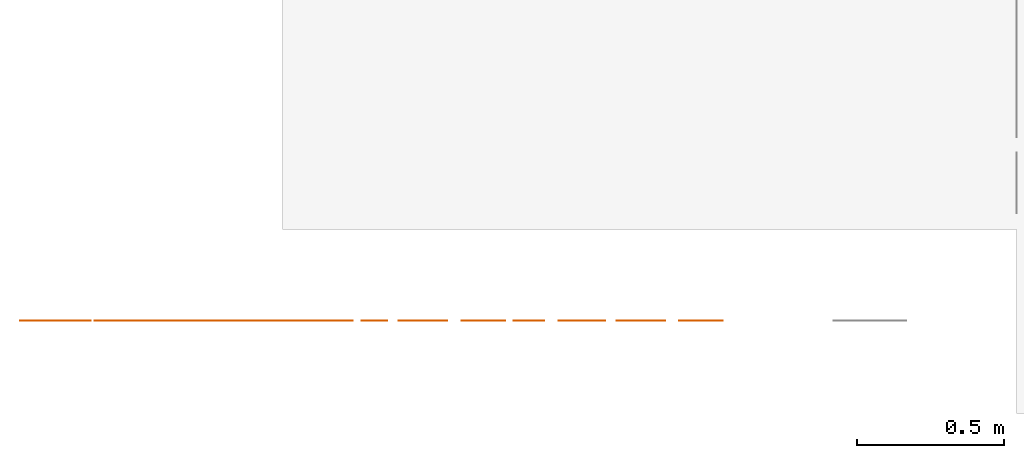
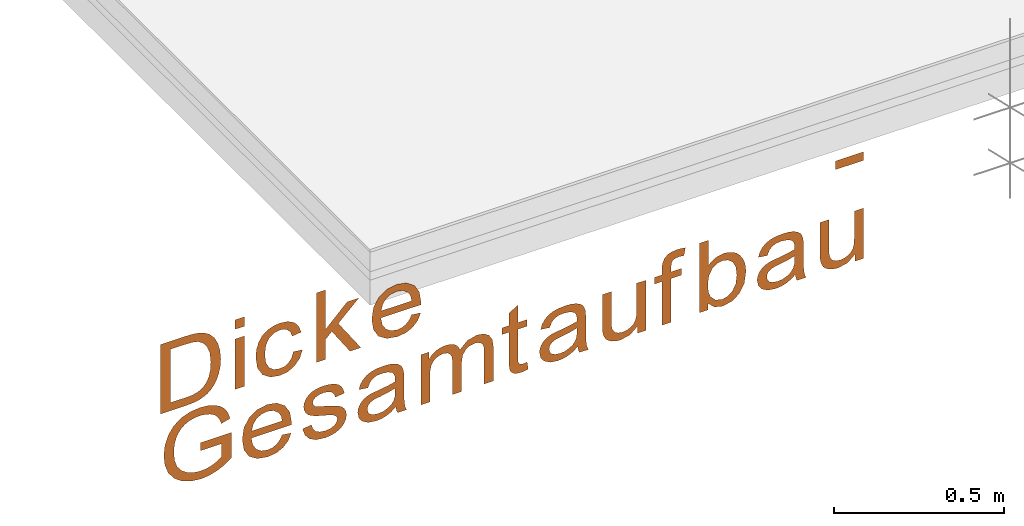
# One storey, part 3 of 3: 1 proxy, 1 element without a shape of its own.
"""IFC4 building model written with IfcOpenShell, lengths in metres."""

from ifc_helpers import new_model, entity, si_unit, converted_unit, derived_unit, frame, origin, origin_with_axes, place, context, subcontext, project, spatial, open_shell, surface_model, source, transform, mapped, element, aggregate, save


model = new_model("IFC4")

# Units and contexts
model_context = context("Model", 3, precision=1e-05, world=origin())
body_context = subcontext(model_context, "Body", "Model", "MODEL_VIEW")
ifc_project = project(units=[si_unit("LENGTHUNIT", "METRE"), si_unit("AREAUNIT", "SQUARE_METRE"), si_unit("VOLUMEUNIT", "CUBIC_METRE"), si_unit("MASSUNIT", "GRAM", prefix="KILO"), converted_unit("PLANEANGLEUNIT", "DEGREE", entity("IfcPlaneAngleMeasure", 0.0174532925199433), si_unit("PLANEANGLEUNIT", "RADIAN"), dimensions=[0, 0, 0, 0, 0, 0, 0]), derived_unit("THERMALTRANSMITTANCEUNIT", [(si_unit("POWERUNIT", "WATT"), 1), (si_unit("THERMODYNAMICTEMPERATUREUNIT", "KELVIN"), -1), (si_unit("LENGTHUNIT", "METRE"), -2)]), derived_unit("VOLUMETRICFLOWRATEUNIT", [(si_unit("LENGTHUNIT", "METRE"), 3), (converted_unit("TIMEUNIT", "hour", entity("IfcTimeMeasure", 3600.0), si_unit("TIMEUNIT", "SECOND"), dimensions=[0, 0, 1, 0, 0, 0, 0]), -1), (si_unit("LENGTHUNIT", "METRE"), -1)])], contexts=[model_context])

# Site, building, storey
site_placement = place(None, origin())
site = spatial("IfcSite", under=ifc_project, at=site_placement, Name="Liegenschaft", CompositionType="ELEMENT")
building_placement = place(site_placement, origin())
building = spatial("IfcBuilding", under=site, at=building_placement, Name="Gebäude", CompositionType="ELEMENT")
storey_placement = place(building_placement, origin())
storey = spatial("IfcBuildingStorey", under=building, at=storey_placement, Name="Geschoss 02", CompositionType="ELEMENT", Elevation=0.0)

# Assembly, proxy
assembly_placement = place(storey_placement, origin())
assembly = element("IfcElementAssembly", 1, at=assembly_placement, inside=storey, Name="SpatialDim_Group", PredefinedType="NOTDEFINED")
shared_shape = source(origin_with_axes(), body_context, "Body", "SurfaceModel", [
    surface_model("IfcShellBasedSurfaceModel", [(0.282, 2.893, 0.0), (0.282, 2.804, 0.0), (0.28325, 2.782125, 0.0), (0.286, 2.764, 0.0), (0.292125, 2.7475, 0.0), (0.299, 2.734, 0.0), (0.308875, 2.72225, 0.0), (0.321, 2.712, 0.0), (0.338, 2.702, 0.0), (0.358, 2.695, 0.0), (0.381875, 2.689625, 0.0), (0.408, 2.688, 0.0), (0.44025, 2.69075, 0.0), (0.468, 2.698, 0.0), (0.492125, 2.709875, 0.0), (0.511, 2.727, 0.0), (0.521375, 2.7435, 0.0), (0.528, 2.763, 0.0), (0.531125, 2.7825, 0.0), (0.532, 2.808, 0.0), (0.532, 2.893, 0.0), (0.312, 2.78575, 0.0), (0.311, 2.807, 0.0), (0.311, 2.86, 0.0), (0.503, 2.86, 0.0), (0.503, 2.808, 0.0), (0.501625, 2.7825, 0.0), (0.498, 2.766, 0.0), (0.486875, 2.748625, 0.0), (0.469, 2.735, 0.0), (0.4435, 2.725125, 0.0), (0.409, 2.722, 0.0), (0.381875, 2.7235, 0.0), (0.36, 2.728, 0.0), (0.341875, 2.736375, 0.0), (0.329, 2.747, 0.0), (0.321, 2.756875, 0.0), (0.316, 2.769, 0.0)], [open_shell([[[0, 1, 2, 3, 4, 5, 6, 7, 8, 9, 10, 11, 12, 13, 14, 15, 16, 17, 18, 19, 20], [21, 22, 23, 24, 25, 26, 27, 28, 29, 30, 31, 32, 33, 34, 35, 36, 37]]], orient=[[False, False]])]),
    surface_model("IfcShellBasedSurfaceModel", [(0.282, 2.639, 0.0), (0.282, 2.608, 0.0), (0.463, 2.608, 0.0), (0.463, 2.639, 0.0), (0.498, 2.639, 0.0), (0.498, 2.608, 0.0), (0.532, 2.608, 0.0), (0.532, 2.639, 0.0)], [open_shell([[[0, 1, 2, 3]], [[4, 5, 6, 7]]], orient=[[False], [False]])]),
    surface_model("IfcShellBasedSurfaceModel", [(0.348, 2.441, 0.0), (0.327625, 2.44675, 0.0), (0.314, 2.457, 0.0), (0.3055, 2.4705, 0.0), (0.303, 2.487, 0.0), (0.307375, 2.508125, 0.0), (0.32, 2.524, 0.0), (0.341625, 2.53475, 0.0), (0.373, 2.538, 0.0), (0.40425, 2.534375, 0.0), (0.425, 2.524, 0.0), (0.438, 2.506875, 0.0), (0.442, 2.486, 0.0), (0.43975, 2.471875, 0.0), (0.433, 2.46, 0.0), (0.420875, 2.45025, 0.0), (0.405, 2.445, 0.0), (0.409, 2.414, 0.0), (0.433875, 2.423, 0.0), (0.452, 2.438, 0.0), (0.46325, 2.45975, 0.0), (0.467, 2.486, 0.0), (0.464125, 2.509125, 0.0), (0.456, 2.53, 0.0), (0.44175, 2.5475, 0.0), (0.423, 2.559, 0.0), (0.399, 2.566625, 0.0), (0.372, 2.569, 0.0), (0.33175, 2.563125, 0.0), (0.302, 2.546, 0.0), (0.284, 2.519, 0.0), (0.278, 2.486, 0.0), (0.2825, 2.458375, 0.0), (0.296, 2.436, 0.0), (0.317, 2.418875, 0.0), (0.344, 2.41, 0.0)], [open_shell([[[0, 1, 2, 3, 4, 5, 6, 7, 8, 9, 10, 11, 12, 13, 14, 15, 16, 17, 18, 19, 20, 21, 22, 23, 24, 25, 26, 27, 28, 29, 30, 31, 32, 33, 34, 35]]], orient=[[False]])]),
    surface_model("IfcShellBasedSurfaceModel", [(0.282, 2.362, 0.0), (0.282, 2.331, 0.0), (0.354, 2.331, 0.0), (0.375, 2.31, 0.0), (0.282, 2.248, 0.0), (0.282, 2.211, 0.0), (0.396, 2.288, 0.0), (0.463, 2.218, 0.0), (0.463, 2.258, 0.0), (0.39, 2.331, 0.0), (0.532, 2.331, 0.0), (0.532, 2.362, 0.0)], [open_shell([[[0, 1, 2, 3, 4, 5, 6, 7, 8, 9, 10, 11]]], orient=[[False]])]),
    surface_model("IfcShellBasedSurfaceModel", [(0.34, 2.038, 0.0), (0.323375, 2.046875, 0.0), (0.312, 2.058, 0.0), (0.30525, 2.071375, 0.0), (0.303, 2.087, 0.0), (0.30725, 2.10875, 0.0), (0.319, 2.126, 0.0), (0.338625, 2.137875, 0.0), (0.365, 2.143, 0.0), (0.365, 2.006, 0.0), (0.36975, 2.006, 0.0), (0.373, 2.006, 0.0), (0.41275, 2.011875, 0.0), (0.442, 2.029, 0.0), (0.460875, 2.056, 0.0), (0.467, 2.089, 0.0), (0.4605, 2.123625, 0.0), (0.442, 2.15, 0.0), (0.411375, 2.168, 0.0), (0.371, 2.174, 0.0), (0.33125, 2.168125, 0.0), (0.302, 2.151, 0.0), (0.284, 2.12275, 0.0), (0.278, 2.087, 0.0), (0.28175, 2.057625, 0.0), (0.293, 2.035, 0.0), (0.3115, 2.017625, 0.0), (0.336, 2.007, 0.0), (0.409625, 2.04175, 0.0), (0.39, 2.038, 0.0), (0.39, 2.142, 0.0), (0.411625, 2.136625, 0.0), (0.428, 2.126, 0.0), (0.43875, 2.109, 0.0), (0.442, 2.089, 0.0), (0.4375, 2.06725, 0.0), (0.424, 2.05, 0.0)], [open_shell([[[0, 1, 2, 3, 4, 5, 6, 7, 8, 9, 10, 11, 12, 13, 14, 15, 16, 17, 18, 19, 20, 21, 22, 23, 24, 25, 26, 27], [28, 29, 30, 31, 32, 33, 34, 35, 36]]], orient=[[False, False]])]),
    surface_model("IfcShellBasedSurfaceModel", [(0.357, 0.595, 0.0), (0.357, 0.5, 0.0), (0.388, 0.5, 0.0), (0.388, 0.595, 0.0)], [open_shell([[[0, 1, 2, 3]]], orient=[[False]])]),
    surface_model("IfcShellBasedSurfaceModel", [(0.102, 2.757, 0.0), (0.102, 2.685, 0.0), (0.055, 2.685, 0.0), (0.046, 2.697875, 0.0), (0.037, 2.716, 0.0), (0.03075, 2.7365, 0.0), (0.029, 2.757, 0.0), (0.031875, 2.781125, 0.0), (0.04, 2.803, 0.0), (0.05425, 2.822625, 0.0), (0.073, 2.837, 0.0), (0.09875, 2.8455, 0.0), (0.129, 2.848, 0.0), (0.155125, 2.84575, 0.0), (0.179, 2.839, 0.0), (0.192625, 2.83175, 0.0), (0.204, 2.823, 0.0), (0.2145, 2.811125, 0.0), (0.222, 2.797, 0.0), (0.227375, 2.77825, 0.0), (0.229, 2.758, 0.0), (0.227, 2.739875, 0.0), (0.222, 2.724, 0.0), (0.214625, 2.70975, 0.0), (0.205, 2.7, 0.0), (0.1915, 2.69225, 0.0), (0.175, 2.686, 0.0), (0.183, 2.656, 0.0), (0.207, 2.664, 0.0), (0.225, 2.675, 0.0), (0.2385, 2.68975, 0.0), (0.249, 2.709, 0.0), (0.25575, 2.732375, 0.0), (0.258, 2.758, 0.0), (0.25425, 2.793125, 0.0), (0.243, 2.823, 0.0), (0.222875, 2.84875, 0.0), (0.196, 2.867, 0.0), (0.16275, 2.87825, 0.0), (0.128, 2.882, 0.0), (0.092625, 2.87825, 0.0), (0.061, 2.867, 0.0), (0.03475, 2.8475, 0.0), (0.016, 2.822, 0.0), (0.003875, 2.79, 0.0), (0.0, 2.755, 0.0), (0.00275, 2.728125, 0.0), (0.01, 2.702, 0.0), (0.021875, 2.67625, 0.0), (0.039, 2.652, 0.0), (0.131, 2.652, 0.0), (0.131, 2.757, 0.0)], [open_shell([[[0, 1, 2, 3, 4, 5, 6, 7, 8, 9, 10, 11, 12, 13, 14, 15, 16, 17, 18, 19, 20, 21, 22, 23, 24, 25, 26, 27, 28, 29, 30, 31, 32, 33, 34, 35, 36, 37, 38, 39, 40, 41, 42, 43, 44, 45, 46, 47, 48, 49, 50, 51]]], orient=[[False]])]),
    surface_model("IfcShellBasedSurfaceModel", [(0.0620000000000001, 2.479, 0.0), (0.0453750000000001, 2.487875, 0.0), (0.0340000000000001, 2.499, 0.0), (0.0272500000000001, 2.512375, 0.0), (0.0250000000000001, 2.528, 0.0), (0.02925, 2.54975, 0.0), (0.041, 2.567, 0.0), (0.060625, 2.578875, 0.0), (0.087, 2.584, 0.0), (0.0870000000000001, 2.447, 0.0), (0.0917500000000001, 2.447, 0.0), (0.0950000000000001, 2.447, 0.0), (0.13475, 2.452875, 0.0), (0.164, 2.47, 0.0), (0.182875, 2.497, 0.0), (0.189, 2.53, 0.0), (0.1825, 2.564625, 0.0), (0.164, 2.591, 0.0), (0.133375, 2.609, 0.0), (0.093, 2.615, 0.0), (0.05325, 2.609125, 0.0), (0.024, 2.592, 0.0), (0.00600000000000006, 2.56375, 0.0), (0.0, 2.528, 0.0), (0.00375000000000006, 2.498625, 0.0), (0.0150000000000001, 2.476, 0.0), (0.0335000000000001, 2.458625, 0.0), (0.0580000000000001, 2.448, 0.0), (0.131625, 2.48275, 0.0), (0.112, 2.479, 0.0), (0.112, 2.583, 0.0), (0.133625, 2.577625, 0.0), (0.15, 2.567, 0.0), (0.16075, 2.55, 0.0), (0.164, 2.53, 0.0), (0.1595, 2.50825, 0.0), (0.146, 2.491, 0.0)], [open_shell([[[0, 1, 2, 3, 4, 5, 6, 7, 8, 9, 10, 11, 12, 13, 14, 15, 16, 17, 18, 19, 20, 21, 22, 23, 24, 25, 26, 27], [28, 29, 30, 31, 32, 33, 34, 35, 36]]], orient=[[False, False]])]),
    surface_model("IfcShellBasedSurfaceModel", [(0.0590000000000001, 2.41, 0.0), (0.0332500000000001, 2.401, 0.0), (0.0150000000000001, 2.386, 0.0), (0.00375000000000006, 2.363625, 0.0), (0.0, 2.333, 0.0), (0.00200000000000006, 2.312875, 0.0), (0.00700000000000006, 2.295, 0.0), (0.0167500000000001, 2.27975, 0.0), (0.0280000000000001, 2.269, 0.0), (0.0425000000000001, 2.26225, 0.0), (0.0570000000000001, 2.26, 0.0), (0.0718750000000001, 2.262125, 0.0), (0.0830000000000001, 2.268, 0.0), (0.0928750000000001, 2.276875, 0.0), (0.0990000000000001, 2.288, 0.0), (0.10575, 2.306, 0.0), (0.114, 2.333, 0.0), (0.119125, 2.351, 0.0), (0.122, 2.36, 0.0), (0.125625, 2.367, 0.0), (0.13, 2.371, 0.0), (0.1355, 2.374125, 0.0), (0.141, 2.375, 0.0), (0.14975, 2.37275, 0.0), (0.157, 2.366, 0.0), (0.162375, 2.354125, 0.0), (0.164, 2.337, 0.0), (0.161875, 2.32125, 0.0), (0.156, 2.31, 0.0), (0.146125, 2.30175, 0.0), (0.134, 2.298, 0.0), (0.138, 2.267, 0.0), (0.15425, 2.271375, 0.0), (0.166, 2.278, 0.0), (0.176, 2.287625, 0.0), (0.183, 2.301, 0.0), (0.1875, 2.31925, 0.0), (0.189, 2.339, 0.0), (0.18775, 2.35325, 0.0), (0.185, 2.366, 0.0), (0.18125, 2.377, 0.0), (0.176, 2.385, 0.0), (0.168625, 2.394, 0.0), (0.159, 2.4, 0.0), (0.148375, 2.4045, 0.0), (0.137, 2.406, 0.0), (0.12425, 2.404, 0.0), (0.113, 2.399, 0.0), (0.103, 2.390125, 0.0), (0.0960000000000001, 2.379, 0.0), (0.0885000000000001, 2.36, 0.0), (0.0810000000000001, 2.332, 0.0), (0.0743750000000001, 2.312, 0.0), (0.0700000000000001, 2.301, 0.0), (0.0627500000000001, 2.293375, 0.0), (0.0540000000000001, 2.291, 0.0), (0.0428750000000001, 2.29375, 0.0), (0.0340000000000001, 2.301, 0.0), (0.0272500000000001, 2.313875, 0.0), (0.0250000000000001, 2.332, 0.0), (0.0277500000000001, 2.35075, 0.0), (0.0350000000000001, 2.365, 0.0), (0.0471250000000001, 2.37425, 0.0), (0.0630000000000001, 2.379, 0.0)], [open_shell([[[0, 1, 2, 3, 4, 5, 6, 7, 8, 9, 10, 11, 12, 13, 14, 15, 16, 17, 18, 19, 20, 21, 22, 23, 24, 25, 26, 27, 28, 29, 30, 31, 32, 33, 34, 35, 36, 37, 38, 39, 40, 41, 42, 43, 44, 45, 46, 47, 48, 49, 50, 51, 52, 53, 54, 55, 56, 57, 58, 59, 60, 61, 62, 63]]], orient=[[False]])]),
    surface_model("IfcShellBasedSurfaceModel", [(0.0143750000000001, 2.08975, 0.0), (0.00400000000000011, 2.086, 0.0), (0.00400000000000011, 2.055, 0.0), (0.0146250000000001, 2.059625, 0.0), (0.0260000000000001, 2.062, 0.0), (0.0455000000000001, 2.06375, 0.0), (0.0800000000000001, 2.064, 0.0), (0.121, 2.064, 0.0), (0.138375, 2.064625, 0.0), (0.149, 2.066, 0.0), (0.161, 2.06975, 0.0), (0.17, 2.075, 0.0), (0.17775, 2.084125, 0.0), (0.184, 2.097, 0.0), (0.188, 2.114125, 0.0), (0.189, 2.135, 0.0), (0.1875, 2.1575, 0.0), (0.183, 2.177, 0.0), (0.174625, 2.19275, 0.0), (0.164, 2.204, 0.0), (0.15, 2.212875, 0.0), (0.133, 2.218, 0.0), (0.129, 2.187, 0.0), (0.14625, 2.180125, 0.0), (0.156, 2.171, 0.0), (0.16225, 2.157625, 0.0), (0.164, 2.139, 0.0), (0.16125, 2.118, 0.0), (0.154, 2.103, 0.0), (0.14275, 2.09625, 0.0), (0.127, 2.094, 0.0), (0.12375, 2.094, 0.0), (0.119, 2.094, 0.0), (0.113125, 2.117125, 0.0), (0.108, 2.15, 0.0), (0.105625, 2.16575, 0.0), (0.104, 2.177, 0.0), (0.0993750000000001, 2.189625, 0.0), (0.0940000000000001, 2.2, 0.0), (0.0857500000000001, 2.209125, 0.0), (0.0760000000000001, 2.216, 0.0), (0.0640000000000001, 2.2205, 0.0), (0.0520000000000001, 2.222, 0.0), (0.0308750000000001, 2.21775, 0.0), (0.0150000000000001, 2.206, 0.0), (0.00375000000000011, 2.1855, 0.0), (0.0, 2.159, 0.0), (0.00150000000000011, 2.14125, 0.0), (0.00600000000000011, 2.125, 0.0), (0.0142500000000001, 2.1085, 0.0), (0.0270000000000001, 2.092, 0.0), (0.0890000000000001, 2.115, 0.0), (0.0950000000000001, 2.094, 0.0), (0.0840000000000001, 2.094, 0.0), (0.0655000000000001, 2.095375, 0.0), (0.0530000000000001, 2.099, 0.0), (0.0402500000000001, 2.108, 0.0), (0.0320000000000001, 2.12, 0.0), (0.0257500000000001, 2.13525, 0.0), (0.0240000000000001, 2.152, 0.0), (0.0261250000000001, 2.16825, 0.0), (0.0320000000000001, 2.18, 0.0), (0.0417500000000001, 2.18675, 0.0), (0.0530000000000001, 2.189, 0.0), (0.0607500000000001, 2.18775, 0.0), (0.0670000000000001, 2.185, 0.0), (0.0731250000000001, 2.178875, 0.0), (0.0770000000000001, 2.172, 0.0), (0.0807500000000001, 2.16075, 0.0), (0.0830000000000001, 2.145, 0.0)], [open_shell([[[0, 1, 2, 3, 4, 5, 6, 7, 8, 9, 10, 11, 12, 13, 14, 15, 16, 17, 18, 19, 20, 21, 22, 23, 24, 25, 26, 27, 28, 29, 30, 31, 32, 33, 34, 35, 36, 37, 38, 39, 40, 41, 42, 43, 44, 45, 46, 47, 48, 49, 50], [51, 52, 53, 54, 55, 56, 57, 58, 59, 60, 61, 62, 63, 64, 65, 66, 67, 68, 69]]], orient=[[False, False]])]),
    surface_model("IfcShellBasedSurfaceModel", [(0.00400000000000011, 2.007, 0.0), (0.00400000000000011, 1.976, 0.0), (0.0980000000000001, 1.976, 0.0), (0.1195, 1.974625, 0.0), (0.135, 1.971, 0.0), (0.146875, 1.964125, 0.0), (0.155, 1.955, 0.0), (0.160375, 1.943, 0.0), (0.162, 1.931, 0.0), (0.15925, 1.916, 0.0), (0.152, 1.907, 0.0), (0.139125, 1.90075, 0.0), (0.121, 1.899, 0.0), (0.00400000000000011, 1.899, 0.0), (0.00400000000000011, 1.868, 0.0), (0.109, 1.868, 0.0), (0.133125, 1.8645, 0.0), (0.149, 1.855, 0.0), (0.158875, 1.840875, 0.0), (0.162, 1.823, 0.0), (0.160625, 1.81325, 0.0), (0.157, 1.805, 0.0), (0.150875, 1.798, 0.0), (0.144, 1.794, 0.0), (0.13325, 1.79175, 0.0), (0.118, 1.791, 0.0), (0.00400000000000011, 1.791, 0.0), (0.00400000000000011, 1.76, 0.0), (0.128, 1.76, 0.0), (0.155125, 1.76375, 0.0), (0.174, 1.775, 0.0), (0.18525, 1.7925, 0.0), (0.189, 1.816, 0.0), (0.180875, 1.84825, 0.0), (0.157, 1.873, 0.0), (0.1705, 1.8805, 0.0), (0.181, 1.891, 0.0), (0.18725, 1.906, 0.0), (0.189, 1.924, 0.0), (0.186875, 1.941125, 0.0), (0.181, 1.956, 0.0), (0.171125, 1.969, 0.0), (0.159, 1.979, 0.0), (0.185, 1.979, 0.0), (0.185, 2.007, 0.0)], [open_shell([[[0, 1, 2, 3, 4, 5, 6, 7, 8, 9, 10, 11, 12, 13, 14, 15, 16, 17, 18, 19, 20, 21, 22, 23, 24, 25, 26, 27, 28, 29, 30, 31, 32, 33, 34, 35, 36, 37, 38, 39, 40, 41, 42, 43, 44]]], orient=[[False]])]),
    surface_model("IfcShellBasedSurfaceModel", [(0.0320000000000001, 1.645, 0.0), (0.0311250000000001, 1.65275, 0.0), (0.0310000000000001, 1.659, 0.0), (0.0316250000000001, 1.66475, 0.0), (0.0330000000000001, 1.669, 0.0), (0.0360000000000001, 1.672625, 0.0), (0.0390000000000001, 1.674, 0.0), (0.0456250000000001, 1.67575, 0.0), (0.0560000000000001, 1.676, 0.0), (0.161, 1.676, 0.0), (0.161, 1.645, 0.0), (0.185, 1.645, 0.0), (0.185, 1.676, 0.0), (0.248, 1.676, 0.0), (0.23, 1.707, 0.0), (0.185, 1.707, 0.0), (0.185, 1.73, 0.0), (0.161, 1.73, 0.0), (0.161, 1.707, 0.0), (0.0570000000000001, 1.707, 0.0), (0.0345000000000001, 1.70575, 0.0), (0.0210000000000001, 1.703, 0.0), (0.0132500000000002, 1.697625, 0.0), (0.00700000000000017, 1.69, 0.0), (0.00300000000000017, 1.678875, 0.0), (0.00200000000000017, 1.664, 0.0), (0.00275000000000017, 1.652875, 0.0), (0.00500000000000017, 1.641, 0.0)], [open_shell([[[0, 1, 2, 3, 4, 5, 6, 7, 8, 9, 10, 11, 12, 13, 14, 15, 16, 17, 18, 19, 20, 21, 22, 23, 24, 25, 26, 27]]], orient=[[False]])]),
    surface_model("IfcShellBasedSurfaceModel", [(0.0143750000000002, 1.47075, 0.0), (0.00400000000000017, 1.467, 0.0), (0.00400000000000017, 1.436, 0.0), (0.0146250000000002, 1.440625, 0.0), (0.0260000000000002, 1.443, 0.0), (0.0455000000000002, 1.44475, 0.0), (0.0800000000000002, 1.445, 0.0), (0.121, 1.445, 0.0), (0.138375, 1.445625, 0.0), (0.149, 1.447, 0.0), (0.161, 1.45075, 0.0), (0.17, 1.456, 0.0), (0.17775, 1.465125, 0.0), (0.184, 1.478, 0.0), (0.188, 1.495125, 0.0), (0.189, 1.516, 0.0), (0.1875, 1.5385, 0.0), (0.183, 1.558, 0.0), (0.174625, 1.57375, 0.0), (0.164, 1.585, 0.0), (0.15, 1.593875, 0.0), (0.133, 1.599, 0.0), (0.129, 1.568, 0.0), (0.14625, 1.561125, 0.0), (0.156, 1.552, 0.0), (0.16225, 1.538625, 0.0), (0.164, 1.52, 0.0), (0.16125, 1.499, 0.0), (0.154, 1.484, 0.0), (0.14275, 1.47725, 0.0), (0.127, 1.475, 0.0), (0.12375, 1.475, 0.0), (0.119, 1.475, 0.0), (0.113125, 1.498125, 0.0), (0.108, 1.531, 0.0), (0.105625, 1.54675, 0.0), (0.104, 1.558, 0.0), (0.0993750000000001, 1.570625, 0.0), (0.0940000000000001, 1.581, 0.0), (0.0857500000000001, 1.590125, 0.0), (0.0760000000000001, 1.597, 0.0), (0.0640000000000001, 1.6015, 0.0), (0.0520000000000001, 1.603, 0.0), (0.0308750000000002, 1.59875, 0.0), (0.0150000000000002, 1.587, 0.0), (0.00375000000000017, 1.5665, 0.0), (0.0, 1.54, 0.0), (0.00150000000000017, 1.52225, 0.0), (0.00600000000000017, 1.506, 0.0), (0.0142500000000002, 1.4895, 0.0), (0.0270000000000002, 1.473, 0.0), (0.0890000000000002, 1.496, 0.0), (0.0950000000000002, 1.475, 0.0), (0.0840000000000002, 1.475, 0.0), (0.0655000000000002, 1.476375, 0.0), (0.0530000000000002, 1.48, 0.0), (0.0402500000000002, 1.489, 0.0), (0.0320000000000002, 1.501, 0.0), (0.0257500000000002, 1.51625, 0.0), (0.0240000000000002, 1.533, 0.0), (0.0261250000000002, 1.54925, 0.0), (0.0320000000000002, 1.561, 0.0), (0.0417500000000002, 1.56775, 0.0), (0.0530000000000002, 1.57, 0.0), (0.0607500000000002, 1.56875, 0.0), (0.0670000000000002, 1.566, 0.0), (0.0731250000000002, 1.559875, 0.0), (0.0770000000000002, 1.553, 0.0), (0.0807500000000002, 1.54175, 0.0), (0.0830000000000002, 1.526, 0.0)], [open_shell([[[0, 1, 2, 3, 4, 5, 6, 7, 8, 9, 10, 11, 12, 13, 14, 15, 16, 17, 18, 19, 20, 21, 22, 23, 24, 25, 26, 27, 28, 29, 30, 31, 32, 33, 34, 35, 36, 37, 38, 39, 40, 41, 42, 43, 44, 45, 46, 47, 48, 49, 50], [51, 52, 53, 54, 55, 56, 57, 58, 59, 60, 61, 62, 63, 64, 65, 66, 67, 68, 69]]], orient=[[False, False]])]),
    surface_model("IfcShellBasedSurfaceModel", [(0.00400000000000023, 1.269, 0.0), (0.00400000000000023, 1.241, 0.0), (0.185, 1.241, 0.0), (0.185, 1.272, 0.0), (0.0880000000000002, 1.272, 0.0), (0.0670000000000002, 1.273375, 0.0), (0.0520000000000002, 1.277, 0.0), (0.0410000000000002, 1.284, 0.0), (0.0330000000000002, 1.294, 0.0), (0.0276250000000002, 1.306625, 0.0), (0.0260000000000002, 1.32, 0.0), (0.0280000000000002, 1.3335, 0.0), (0.0330000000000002, 1.344, 0.0), (0.0413750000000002, 1.3515, 0.0), (0.0520000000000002, 1.356, 0.0), (0.0642500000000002, 1.35775, 0.0), (0.0840000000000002, 1.358, 0.0), (0.185, 1.358, 0.0), (0.185, 1.389, 0.0), (0.0730000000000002, 1.389, 0.0), (0.0555000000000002, 1.388375, 0.0), (0.0440000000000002, 1.387, 0.0), (0.0318750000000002, 1.38325, 0.0), (0.0220000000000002, 1.378, 0.0), (0.0128750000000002, 1.369, 0.0), (0.00600000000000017, 1.357, 0.0), (0.00150000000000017, 1.342, 0.0), (0.0, 1.327, 0.0), (0.00750000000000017, 1.293875, 0.0), (0.0300000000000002, 1.269, 0.0)], [open_shell([[[0, 1, 2, 3, 4, 5, 6, 7, 8, 9, 10, 11, 12, 13, 14, 15, 16, 17, 18, 19, 20, 21, 22, 23, 24, 25, 26, 27, 28, 29]]], orient=[[False]])]),
    surface_model("IfcShellBasedSurfaceModel", [(0.00400000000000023, 1.186, 0.0), (0.00400000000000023, 1.155, 0.0), (0.161, 1.155, 0.0), (0.161, 1.12, 0.0), (0.185, 1.12, 0.0), (0.185, 1.155, 0.0), (0.202, 1.155, 0.0), (0.215625, 1.1535, 0.0), (0.224, 1.149, 0.0), (0.2285, 1.140875, 0.0), (0.23, 1.129, 0.0), (0.229375, 1.12, 0.0), (0.228, 1.111, 0.0), (0.255, 1.106, 0.0), (0.25725, 1.121625, 0.0), (0.258, 1.135, 0.0), (0.256, 1.15325, 0.0), (0.251, 1.167, 0.0), (0.24175, 1.17675, 0.0), (0.231, 1.182, 0.0), (0.21975, 1.185125, 0.0), (0.204, 1.186, 0.0), (0.185, 1.186, 0.0), (0.185, 1.212, 0.0), (0.161, 1.212, 0.0), (0.161, 1.186, 0.0)], [open_shell([[[0, 1, 2, 3, 4, 5, 6, 7, 8, 9, 10, 11, 12, 13, 14, 15, 16, 17, 18, 19, 20, 21, 22, 23, 24, 25]]], orient=[[False]])]),
    surface_model("IfcShellBasedSurfaceModel", [(0.00400000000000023, 1.029, 0.0), (0.0270000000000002, 1.029, 0.0), (0.00675000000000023, 1.007375, 0.0), (0.0, 0.979, 0.0), (0.00650000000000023, 0.948375, 0.0), (0.0250000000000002, 0.923, 0.0), (0.0565000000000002, 0.9055, 0.0), (0.0970000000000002, 0.9, 0.0), (0.116625, 0.901375, 0.0), (0.134, 0.905, 0.0), (0.15, 0.91225, 0.0), (0.163, 0.921, 0.0), (0.174375, 0.9315, 0.0), (0.182, 0.945, 0.0), (0.187375, 0.960625, 0.0), (0.189, 0.977, 0.0), (0.183, 1.004625, 0.0), (0.165, 1.027, 0.0), (0.254, 1.027, 0.0), (0.254, 1.058, 0.0), (0.00400000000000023, 1.058, 0.0), (0.0680000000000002, 1.02775, 0.0), (0.0960000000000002, 1.03, 0.0), (0.12525, 1.02625, 0.0), (0.147, 1.015, 0.0), (0.16, 0.998625, 0.0), (0.164, 0.98, 0.0), (0.159625, 0.961, 0.0), (0.147, 0.945, 0.0), (0.125125, 0.93425, 0.0), (0.0950000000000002, 0.931, 0.0), (0.0641250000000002, 0.93475, 0.0), (0.0430000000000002, 0.946, 0.0), (0.0295000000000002, 0.962375, 0.0), (0.0250000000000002, 0.981, 0.0), (0.0310000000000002, 1.003625, 0.0), (0.0490000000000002, 1.021, 0.0)], [open_shell([[[0, 1, 2, 3, 4, 5, 6, 7, 8, 9, 10, 11, 12, 13, 14, 15, 16, 17, 18, 19, 20], [21, 22, 23, 24, 25, 26, 27, 28, 29, 30, 31, 32, 33, 34, 35, 36]]], orient=[[False, False]])]),
    surface_model("IfcShellBasedSurfaceModel", [(0.0143750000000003, 0.72975, 0.0), (0.00400000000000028, 0.726, 0.0), (0.00400000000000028, 0.695, 0.0), (0.0146250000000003, 0.699625, 0.0), (0.0260000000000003, 0.702, 0.0), (0.0455000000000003, 0.70375, 0.0), (0.0800000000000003, 0.704, 0.0), (0.121, 0.704, 0.0), (0.138375, 0.704625, 0.0), (0.149, 0.706, 0.0), (0.161, 0.70975, 0.0), (0.17, 0.715, 0.0), (0.17775, 0.724125, 0.0), (0.184, 0.737, 0.0), (0.188, 0.754125, 0.0), (0.189, 0.775, 0.0), (0.1875, 0.7975, 0.0), (0.183, 0.817, 0.0), (0.174625, 0.83275, 0.0), (0.164, 0.844, 0.0), (0.15, 0.852875, 0.0), (0.133, 0.858, 0.0), (0.129, 0.827, 0.0), (0.14625, 0.820125, 0.0), (0.156, 0.811, 0.0), (0.16225, 0.797625, 0.0), (0.164, 0.779, 0.0), (0.16125, 0.758, 0.0), (0.154, 0.743, 0.0), (0.14275, 0.73625, 0.0), (0.127, 0.734, 0.0), (0.12375, 0.734, 0.0), (0.119, 0.734, 0.0), (0.113125, 0.757125, 0.0), (0.108, 0.79, 0.0), (0.105625, 0.80575, 0.0), (0.104, 0.817, 0.0), (0.0993750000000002, 0.829625, 0.0), (0.0940000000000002, 0.84, 0.0), (0.0857500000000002, 0.849125, 0.0), (0.0760000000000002, 0.856, 0.0), (0.0640000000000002, 0.8605, 0.0), (0.0520000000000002, 0.862, 0.0), (0.0308750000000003, 0.85775, 0.0), (0.0150000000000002, 0.846, 0.0), (0.00375000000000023, 0.8255, 0.0), (0.0, 0.799, 0.0), (0.00150000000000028, 0.78125, 0.0), (0.00600000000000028, 0.765, 0.0), (0.0142500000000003, 0.7485, 0.0), (0.0270000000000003, 0.732, 0.0), (0.0890000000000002, 0.755, 0.0), (0.0950000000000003, 0.734, 0.0), (0.0840000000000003, 0.734, 0.0), (0.0655000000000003, 0.735375, 0.0), (0.0530000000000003, 0.739, 0.0), (0.0402500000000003, 0.748, 0.0), (0.0320000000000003, 0.76, 0.0), (0.0257500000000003, 0.77525, 0.0), (0.0240000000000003, 0.792, 0.0), (0.0261250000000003, 0.80825, 0.0), (0.0320000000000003, 0.82, 0.0), (0.0417500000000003, 0.82675, 0.0), (0.0530000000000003, 0.829, 0.0), (0.0607500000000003, 0.82775, 0.0), (0.0670000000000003, 0.825, 0.0), (0.0731250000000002, 0.818875, 0.0), (0.0770000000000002, 0.812, 0.0), (0.0807500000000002, 0.80075, 0.0), (0.0830000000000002, 0.785, 0.0)], [open_shell([[[0, 1, 2, 3, 4, 5, 6, 7, 8, 9, 10, 11, 12, 13, 14, 15, 16, 17, 18, 19, 20, 21, 22, 23, 24, 25, 26, 27, 28, 29, 30, 31, 32, 33, 34, 35, 36, 37, 38, 39, 40, 41, 42, 43, 44, 45, 46, 47, 48, 49, 50], [51, 52, 53, 54, 55, 56, 57, 58, 59, 60, 61, 62, 63, 64, 65, 66, 67, 68, 69]]], orient=[[False, False]])]),
    surface_model("IfcShellBasedSurfaceModel", [(0.00400000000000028, 0.528, 0.0), (0.00400000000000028, 0.5, 0.0), (0.185, 0.5, 0.0), (0.185, 0.531, 0.0), (0.0880000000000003, 0.531, 0.0), (0.0670000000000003, 0.532375, 0.0), (0.0520000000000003, 0.536, 0.0), (0.0410000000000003, 0.543, 0.0), (0.0330000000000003, 0.553, 0.0), (0.0276250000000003, 0.565625, 0.0), (0.0260000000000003, 0.579, 0.0), (0.0280000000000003, 0.5925, 0.0), (0.0330000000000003, 0.603, 0.0), (0.0413750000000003, 0.6105, 0.0), (0.0520000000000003, 0.615, 0.0), (0.0642500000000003, 0.61675, 0.0), (0.0840000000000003, 0.617, 0.0), (0.185, 0.617, 0.0), (0.185, 0.648, 0.0), (0.0730000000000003, 0.648, 0.0), (0.0555000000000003, 0.647375, 0.0), (0.0440000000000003, 0.646, 0.0), (0.0318750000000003, 0.64225, 0.0), (0.0220000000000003, 0.637, 0.0), (0.0128750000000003, 0.628, 0.0), (0.00600000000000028, 0.616, 0.0), (0.00150000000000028, 0.601, 0.0), (0.0, 0.586, 0.0), (0.00750000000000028, 0.552875, 0.0), (0.0300000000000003, 0.528, 0.0)], [open_shell([[[0, 1, 2, 3, 4, 5, 6, 7, 8, 9, 10, 11, 12, 13, 14, 15, 16, 17, 18, 19, 20, 21, 22, 23, 24, 25, 26, 27, 28, 29]]], orient=[[False]])]),
])
proxy_placement = place(assembly_placement, frame((82.6958806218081, -1.82689502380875, -0.172), z_axis=(-1.22464679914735e-16, -1.0, 1.49975978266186e-32), x_axis=(1.22464679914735e-16, 0.0, 1.0)))
proxy = element("IfcBuildingElementProxy", 2, at=proxy_placement, Name="macro", context=body_context, shape_type="MappedRepresentation", body=[
    mapped(shared_shape, transform((0.0, 0.0, 0.0), x_axis=(1.0, 0.0, 0.0), y_axis=(0.0, 1.0, 0.0), z_axis=(0.0, 0.0, 1.0), scale=1.0)),
])
aggregate(assembly, [proxy])

save(model, "model.ifc")
